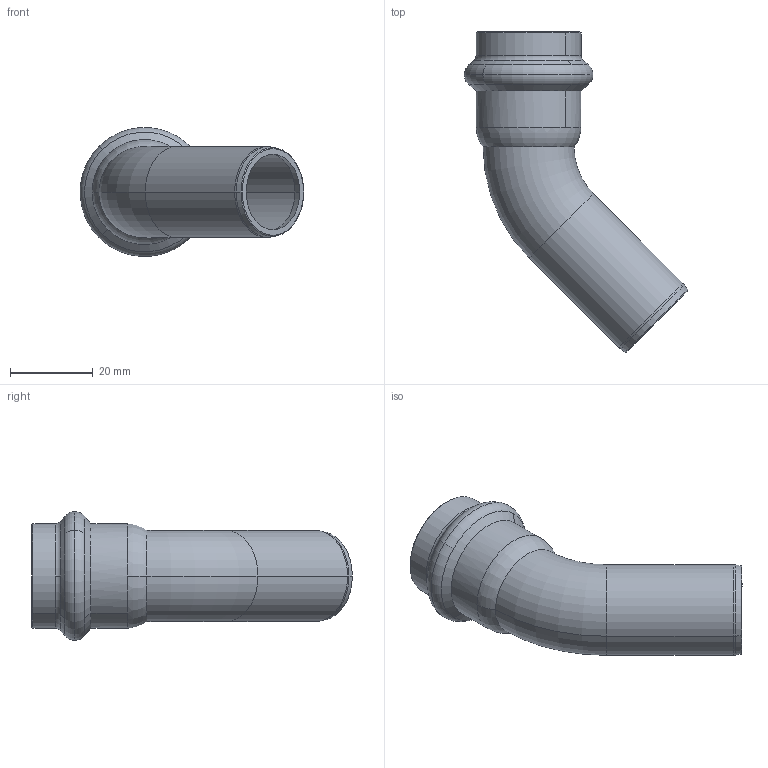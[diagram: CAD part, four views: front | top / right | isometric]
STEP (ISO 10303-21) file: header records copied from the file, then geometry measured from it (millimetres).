
FILE_DESCRIPTION(('CoCreate Modeling STEP Export'),'2;1');
FILE_NAME('8040VW22.stp','2013-01-29T14:41:37',(''),(''),'CoCreate Modeling STEP processor for AP214 (Solid Model)','CoCreate Modeling 17.00A 17-Jun-2010 (C) Parametric Technology GmbH','');
FILE_SCHEMA(('AUTOMOTIVE_DESIGN { 1 0 10303 214 1 1 1 1 }'));
Length unit declared in the file: millimetre
Products named in the file (1): 8040VW22
Bounding box: 54 x 77.49 x 31.08 mm (x, y, z)
Volume: 9757.5 mm3; surface area: 11790.4 mm2
Topology: 1 solids, 1 shells, 54 faces, 141 edges, 91 vertices
Faces by surface type: torus 20, cone 16, cylinder 14, plane 4
Entity records: 1320 total; most frequent: ORIENTED_EDGE 282, CARTESIAN_POINT 201, DIRECTION 190, EDGE_CURVE 141, VERTEX_POINT 91, AXIS2_PLACEMENT_3D 80, EDGE_LOOP 58, FACE_OUTER_BOUND 54
